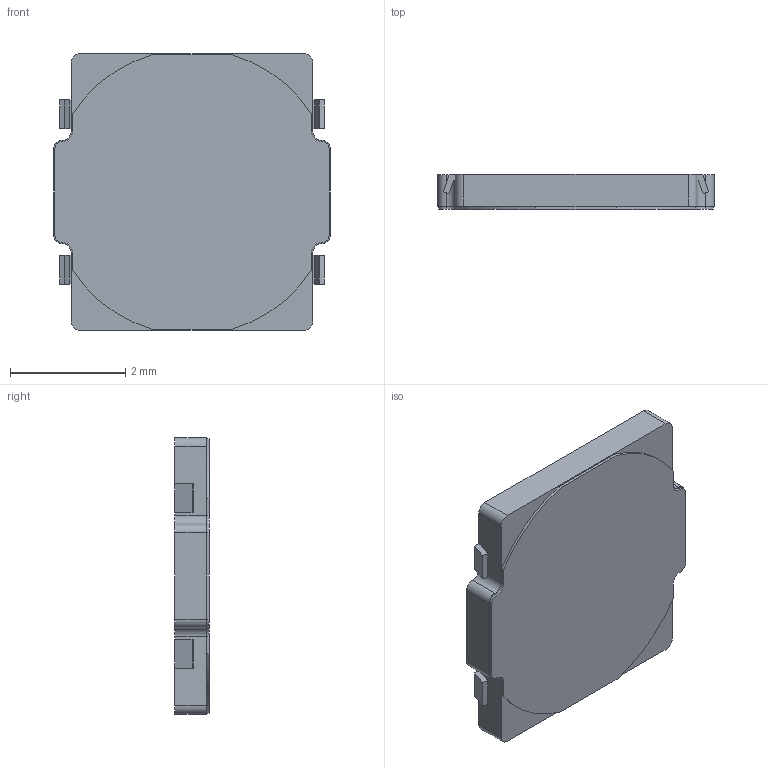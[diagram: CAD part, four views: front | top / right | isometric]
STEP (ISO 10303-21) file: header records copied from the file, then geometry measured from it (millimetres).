
FILE_DESCRIPTION((''),'2;1');
FILE_NAME('JQH4848-A0060-05EG-1-105_ASM','2026-05-22T17:45:51',('Admin'),(''),'CREO PARAMETRIC BY PTC INC, 2019224','CREO PARAMETRIC BY PTC INC, 2019224','');
FILE_SCHEMA(('AUTOMOTIVE_DESIGN { 1 0 10303 214 1 1 1 1 }'));
Length unit declared in the file: millimetre
Products named in the file (3): JQH4848-A0060-05EG-1-105_01; JQH4848-A0060-05EG-1-105_02; JQH4848-A0060-05EG-1-105_ASM
Assembly tree (2 placements, depth 2):
  JQH4848-A0060-05EG-1-105_ASM
    JQH4848-A0060-05EG-1-105_01
    JQH4848-A0060-05EG-1-105_02
Bounding box: 4.8 x 0.6 x 4.8 mm (x, y, z)
Volume: 11.2 mm3; surface area: 97.5 mm2
Topology: 2 solids, 2 shells, 97 faces, 275 edges, 183 vertices
Faces by surface type: plane 67, cylinder 28, sphere 2
Entity records: 4511 total; most frequent: CARTESIAN_POINT 567, DIRECTION 551, ORIENTED_EDGE 544, PRESENTATION_STYLE_ASSIGNMENT 307, STYLED_ITEM 278, CURVE_STYLE 276, EDGE_CURVE 272, VECTOR 207
